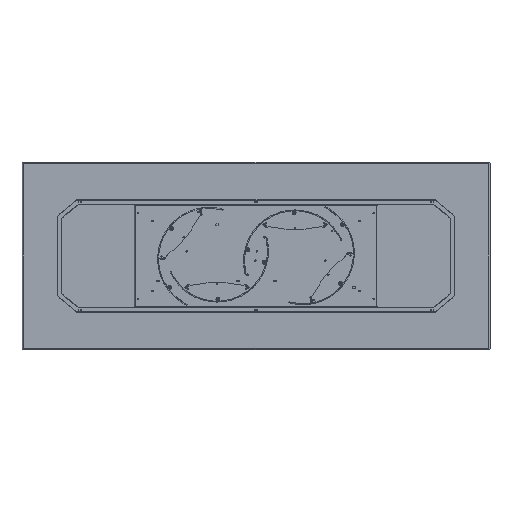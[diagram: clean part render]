
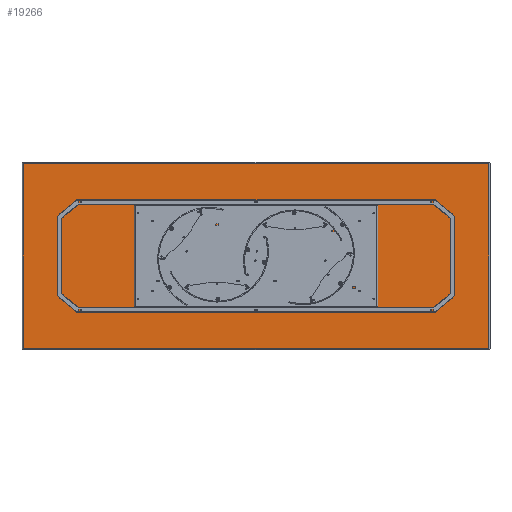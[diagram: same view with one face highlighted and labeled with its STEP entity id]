
A CAD part, front view. The second image highlights one B-rep face of the part: STEP entity #19266.
In plain terms, the highlighted planar face has unit normal (0, -1, 0).
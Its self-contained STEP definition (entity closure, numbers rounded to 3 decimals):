
#114 = VERTEX_POINT ( 'NONE', #16818 ) ;
#727 = CARTESIAN_POINT ( 'NONE',  ( 0., 0., -592. ) ) ;
#1539 = VECTOR ( 'NONE', #7454, 1000. ) ;
#1670 = ORIENTED_EDGE ( 'NONE', *, *, #8825, .T. ) ;
#2350 = VECTOR ( 'NONE', #6592, 1000. ) ;
#4407 = EDGE_CURVE ( 'NONE', #114, #15437, #17072, .T. ) ;
#4475 = CARTESIAN_POINT ( 'NONE',  ( 1492., 0., 592. ) ) ;
#6592 = DIRECTION ( 'NONE',  ( -1., 0., 0. ) ) ;
#7454 = DIRECTION ( 'NONE',  ( 0., 0., 1. ) ) ;
#7525 = EDGE_LOOP ( 'NONE', ( #13755, #18471, #9648, #1670 ) ) ;
#7661 = DIRECTION ( 'NONE',  ( 1., 0., 0. ) ) ;
#7922 = AXIS2_PLACEMENT_3D ( 'NONE', #15901, #14217, #14434 ) ;
#8284 = VERTEX_POINT ( 'NONE', #4475 ) ;
#8569 = VECTOR ( 'NONE', #7661, 1000. ) ;
#8825 = EDGE_CURVE ( 'NONE', #15437, #14349, #16296, .T. ) ;
#9324 = EDGE_CURVE ( 'NONE', #8284, #114, #11502, .T. ) ;
#9648 = ORIENTED_EDGE ( 'NONE', *, *, #4407, .T. ) ;
#10260 = CARTESIAN_POINT ( 'NONE',  ( -1492., 0., 0. ) ) ;
#11502 = LINE ( 'NONE', #11734, #2350 ) ;
#11734 = CARTESIAN_POINT ( 'NONE',  ( 0., 0., 592. ) ) ;
#11971 = LINE ( 'NONE', #18888, #1539 ) ;
#13755 = ORIENTED_EDGE ( 'NONE', *, *, #16372, .T. ) ;
#14217 = DIRECTION ( 'NONE',  ( 0., 1., 0. ) ) ;
#14349 = VERTEX_POINT ( 'NONE', #21968 ) ;
#14434 = DIRECTION ( 'NONE',  ( 0., 0., 1. ) ) ;
#15437 = VERTEX_POINT ( 'NONE', #15536 ) ;
#15536 = CARTESIAN_POINT ( 'NONE',  ( -1492., 0., -592. ) ) ;
#15901 = CARTESIAN_POINT ( 'NONE',  ( 0., 0., 0. ) ) ;
#16015 = PLANE ( 'NONE',  #7922 ) ;
#16296 = LINE ( 'NONE', #727, #8569 ) ;
#16372 = EDGE_CURVE ( 'NONE', #14349, #8284, #11971, .T. ) ;
#16818 = CARTESIAN_POINT ( 'NONE',  ( -1492., 0., 592. ) ) ;
#17072 = LINE ( 'NONE', #10260, #19866 ) ;
#17596 = FACE_OUTER_BOUND ( 'NONE', #7525, .T. ) ;
#18471 = ORIENTED_EDGE ( 'NONE', *, *, #9324, .T. ) ;
#18888 = CARTESIAN_POINT ( 'NONE',  ( 1492., 0., 0. ) ) ;
#19266 = ADVANCED_FACE ( 'NONE', ( #17596 ), #16015, .F. ) ;
#19866 = VECTOR ( 'NONE', #20838, 1000. ) ;
#20838 = DIRECTION ( 'NONE',  ( 0., 0., -1. ) ) ;
#21968 = CARTESIAN_POINT ( 'NONE',  ( 1492., 0., -592. ) ) ;
